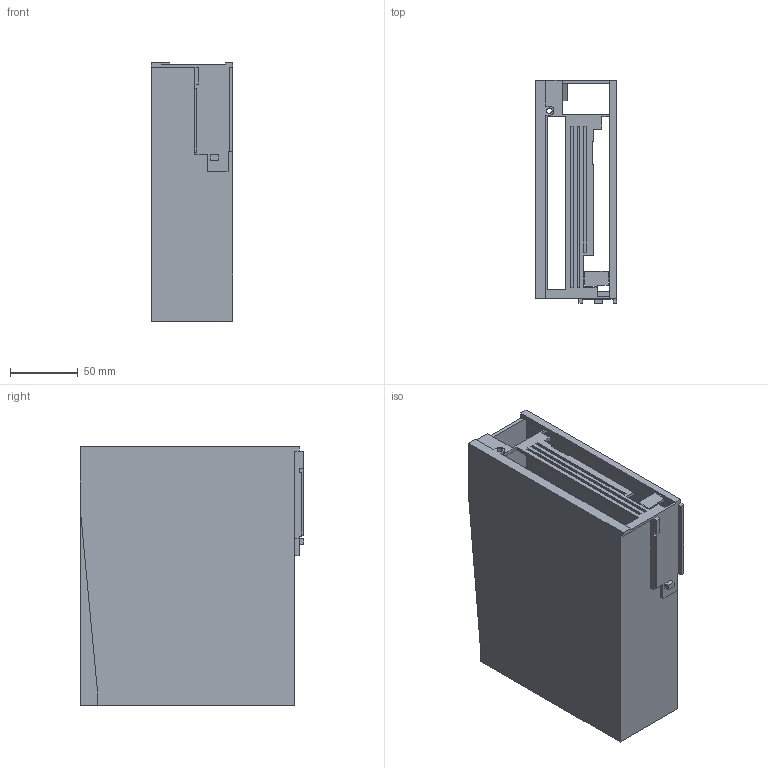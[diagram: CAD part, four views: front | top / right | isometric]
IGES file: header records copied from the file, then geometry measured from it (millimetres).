
Start section:  PTC IGES file: j4-60-100-case.igs
Global section: file name: j4-60-100-case.igs; native system: Pro/ENGINEER by Parametric Technology Corporation; preprocessor: 2010160; author: JE18792; organization: Unknown; date: 20121031.180051; units: millimetre
Bounding box: 60 x 164.5 x 190.2 mm (x, y, z)
Volume: 220101.9 mm3; surface area: 176167.5 mm2
Topology: 1 solids, 1 shells, 100 faces, 293 edges, 195 vertices
Faces by surface type: bspline 100
